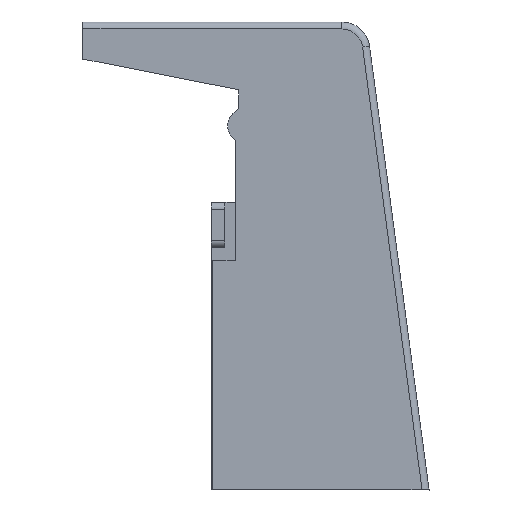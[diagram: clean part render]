
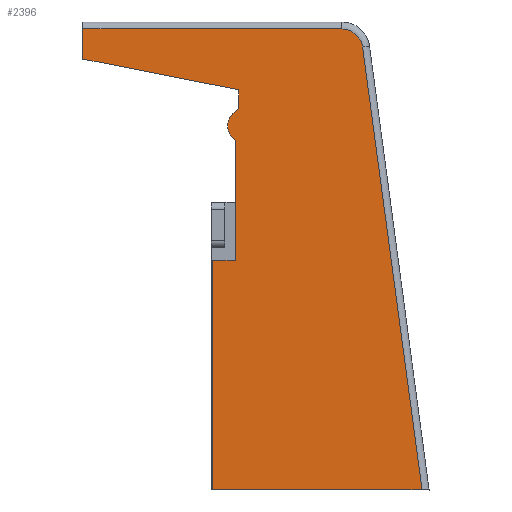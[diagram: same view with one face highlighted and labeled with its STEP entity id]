
A CAD part, front view. The second image highlights one B-rep face of the part: STEP entity #2396.
In plain terms, the highlighted planar face has unit normal (0, -1, 0).
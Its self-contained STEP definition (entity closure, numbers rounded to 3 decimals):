
#2 = VECTOR ( 'NONE', #4440, 1000. ) ;
#134 = ORIENTED_EDGE ( 'NONE', *, *, #4753, .T. ) ;
#202 = CARTESIAN_POINT ( 'NONE',  ( 25.8, 235.275, 44.121 ) ) ;
#254 = VECTOR ( 'NONE', #5216, 1000. ) ;
#260 = CARTESIAN_POINT ( 'NONE',  ( 54.1, 235.275, 48.671 ) ) ;
#335 = DIRECTION ( 'NONE',  ( -1., 0., 0. ) ) ;
#530 = CARTESIAN_POINT ( 'NONE',  ( 52.178, 235.275, 38.921 ) ) ;
#595 = VERTEX_POINT ( 'NONE', #867 ) ;
#649 = EDGE_CURVE ( 'NONE', #5190, #1864, #1144, .T. ) ;
#650 = LINE ( 'NONE', #4468, #2 ) ;
#666 = EDGE_CURVE ( 'NONE', #2930, #1306, #4280, .T. ) ;
#677 = PLANE ( 'NONE',  #2971 ) ;
#712 = DIRECTION ( 'NONE',  ( 1., 0., 0. ) ) ;
#764 = DIRECTION ( 'NONE',  ( 0., -1., 0. ) ) ;
#793 = DIRECTION ( 'NONE',  ( 0., 0., 1. ) ) ;
#841 = DIRECTION ( 'NONE',  ( 0., -1., 0. ) ) ;
#857 = ORIENTED_EDGE ( 'NONE', *, *, #4536, .T. ) ;
#867 = CARTESIAN_POINT ( 'NONE',  ( 35.1, 235.275, 13.171 ) ) ;
#959 = VERTEX_POINT ( 'NONE', #2900 ) ;
#1008 = ORIENTED_EDGE ( 'NONE', *, *, #3603, .F. ) ;
#1114 = CIRCLE ( 'NONE', #5456, 1.5 ) ;
#1125 = CARTESIAN_POINT ( 'NONE',  ( 45.888, 235.275, 44.98 ) ) ;
#1144 = CIRCLE ( 'NONE', #5388, 36.184 ) ;
#1306 = VERTEX_POINT ( 'NONE', #1438 ) ;
#1438 = CARTESIAN_POINT ( 'NONE',  ( 25.8, 235.275, 46.28 ) ) ;
#1477 = EDGE_LOOP ( 'NONE', ( #1790, #134, #857, #3293, #3518, #4296, #4373, #4239, #3073, #4774, #1008, #4964 ) ) ;
#1611 = EDGE_CURVE ( 'NONE', #4141, #2341, #4337, .T. ) ;
#1621 = CARTESIAN_POINT ( 'NONE',  ( 35.1, 235.275, 48.671 ) ) ;
#1625 = VECTOR ( 'NONE', #4712, 1000. ) ;
#1668 = CARTESIAN_POINT ( 'NONE',  ( 37., 235.275, 48.671 ) ) ;
#1752 = LINE ( 'NONE', #3480, #4643 ) ;
#1790 = ORIENTED_EDGE ( 'NONE', *, *, #2336, .T. ) ;
#1864 = VERTEX_POINT ( 'NONE', #3892 ) ;
#1901 = EDGE_CURVE ( 'NONE', #5190, #4141, #2605, .T. ) ;
#2069 = CARTESIAN_POINT ( 'NONE',  ( 37.459, 235.275, 39.335 ) ) ;
#2097 = DIRECTION ( 'NONE',  ( -1., 0., 0. ) ) ;
#2133 = CARTESIAN_POINT ( 'NONE',  ( 54.1, 235.275, 46.28 ) ) ;
#2178 = CARTESIAN_POINT ( 'NONE',  ( 44.402, 235.275, 44.78 ) ) ;
#2336 = EDGE_CURVE ( 'NONE', #595, #3123, #4469, .T. ) ;
#2341 = VERTEX_POINT ( 'NONE', #202 ) ;
#2396 = ADVANCED_FACE ( 'NONE', ( #4117 ), #677, .T. ) ;
#2526 = LINE ( 'NONE', #4647, #3046 ) ;
#2605 = LINE ( 'NONE', #1668, #5308 ) ;
#2896 = DIRECTION ( 'NONE',  ( 0., -1., 0. ) ) ;
#2900 = CARTESIAN_POINT ( 'NONE',  ( 35.1, 235.275, 29.671 ) ) ;
#2910 = CARTESIAN_POINT ( 'NONE',  ( 37., 235.275, 40.551 ) ) ;
#2930 = VERTEX_POINT ( 'NONE', #4424 ) ;
#2931 = CARTESIAN_POINT ( 'NONE',  ( 57.649, 235.275, 10.837 ) ) ;
#2948 = VECTOR ( 'NONE', #5017, 1000. ) ;
#2971 = AXIS2_PLACEMENT_3D ( 'NONE', #260, #764, #712 ) ;
#3046 = VECTOR ( 'NONE', #4709, 1000. ) ;
#3073 = ORIENTED_EDGE ( 'NONE', *, *, #3777, .T. ) ;
#3123 = VERTEX_POINT ( 'NONE', #5042 ) ;
#3165 = EDGE_CURVE ( 'NONE', #595, #959, #5529, .T. ) ;
#3174 = EDGE_CURVE ( 'NONE', #3905, #3827, #2526, .T. ) ;
#3293 = ORIENTED_EDGE ( 'NONE', *, *, #666, .T. ) ;
#3324 = CARTESIAN_POINT ( 'NONE',  ( 37., 235.275, 41.913 ) ) ;
#3433 = CARTESIAN_POINT ( 'NONE',  ( 54.1, 235.275, 29.671 ) ) ;
#3480 = CARTESIAN_POINT ( 'NONE',  ( 25.8, 235.275, 48.671 ) ) ;
#3518 = ORIENTED_EDGE ( 'NONE', *, *, #4629, .T. ) ;
#3528 = CARTESIAN_POINT ( 'NONE',  ( 36.75, 235.275, 29.671 ) ) ;
#3603 = EDGE_CURVE ( 'NONE', #959, #3905, #4300, .T. ) ;
#3695 = CIRCLE ( 'NONE', #3873, 1.259 ) ;
#3777 = EDGE_CURVE ( 'NONE', #1864, #3827, #3695, .T. ) ;
#3827 = VERTEX_POINT ( 'NONE', #4645 ) ;
#3843 = DIRECTION ( 'NONE',  ( 0., -1., 0. ) ) ;
#3856 = DIRECTION ( 'NONE',  ( -1., 0., 0. ) ) ;
#3873 = AXIS2_PLACEMENT_3D ( 'NONE', #2069, #2896, #2097 ) ;
#3892 = CARTESIAN_POINT ( 'NONE',  ( 36.731, 235.275, 40.362 ) ) ;
#3905 = VERTEX_POINT ( 'NONE', #3528 ) ;
#4031 = CARTESIAN_POINT ( 'NONE',  ( 54.1, 235.275, 13.171 ) ) ;
#4060 = DIRECTION ( 'NONE',  ( 1., 0., 0. ) ) ;
#4117 = FACE_OUTER_BOUND ( 'NONE', #1477, .T. ) ;
#4141 = VERTEX_POINT ( 'NONE', #3324 ) ;
#4239 = ORIENTED_EDGE ( 'NONE', *, *, #649, .T. ) ;
#4280 = LINE ( 'NONE', #2133, #4941 ) ;
#4296 = ORIENTED_EDGE ( 'NONE', *, *, #1611, .F. ) ;
#4300 = LINE ( 'NONE', #3433, #1625 ) ;
#4337 = LINE ( 'NONE', #530, #254 ) ;
#4373 = ORIENTED_EDGE ( 'NONE', *, *, #1901, .F. ) ;
#4424 = CARTESIAN_POINT ( 'NONE',  ( 44.402, 235.275, 46.28 ) ) ;
#4440 = DIRECTION ( 'NONE',  ( -0.133, 0., 0.991 ) ) ;
#4468 = CARTESIAN_POINT ( 'NONE',  ( 45.838, 235.275, 45.358 ) ) ;
#4469 = LINE ( 'NONE', #4031, #4954 ) ;
#4536 = EDGE_CURVE ( 'NONE', #5542, #2930, #1114, .T. ) ;
#4629 = EDGE_CURVE ( 'NONE', #1306, #2341, #1752, .T. ) ;
#4643 = VECTOR ( 'NONE', #5231, 1000. ) ;
#4645 = CARTESIAN_POINT ( 'NONE',  ( 36.75, 235.275, 38.294 ) ) ;
#4647 = CARTESIAN_POINT ( 'NONE',  ( 36.75, 235.275, 48.671 ) ) ;
#4709 = DIRECTION ( 'NONE',  ( 0., 0., 1. ) ) ;
#4712 = DIRECTION ( 'NONE',  ( 1., 0., 0. ) ) ;
#4730 = DIRECTION ( 'NONE',  ( 1., 0., 0. ) ) ;
#4753 = EDGE_CURVE ( 'NONE', #3123, #5542, #650, .T. ) ;
#4774 = ORIENTED_EDGE ( 'NONE', *, *, #3174, .F. ) ;
#4941 = VECTOR ( 'NONE', #3856, 1000. ) ;
#4954 = VECTOR ( 'NONE', #4060, 1000. ) ;
#4964 = ORIENTED_EDGE ( 'NONE', *, *, #3165, .F. ) ;
#5017 = DIRECTION ( 'NONE',  ( 0., 0., 1. ) ) ;
#5042 = CARTESIAN_POINT ( 'NONE',  ( 50.157, 235.275, 13.171 ) ) ;
#5190 = VERTEX_POINT ( 'NONE', #2910 ) ;
#5216 = DIRECTION ( 'NONE',  ( -0.981, 0., 0.193 ) ) ;
#5231 = DIRECTION ( 'NONE',  ( 0., 0., -1. ) ) ;
#5308 = VECTOR ( 'NONE', #793, 1000. ) ;
#5388 = AXIS2_PLACEMENT_3D ( 'NONE', #2931, #841, #335 ) ;
#5456 = AXIS2_PLACEMENT_3D ( 'NONE', #2178, #3843, #4730 ) ;
#5529 = LINE ( 'NONE', #1621, #2948 ) ;
#5542 = VERTEX_POINT ( 'NONE', #1125 ) ;
